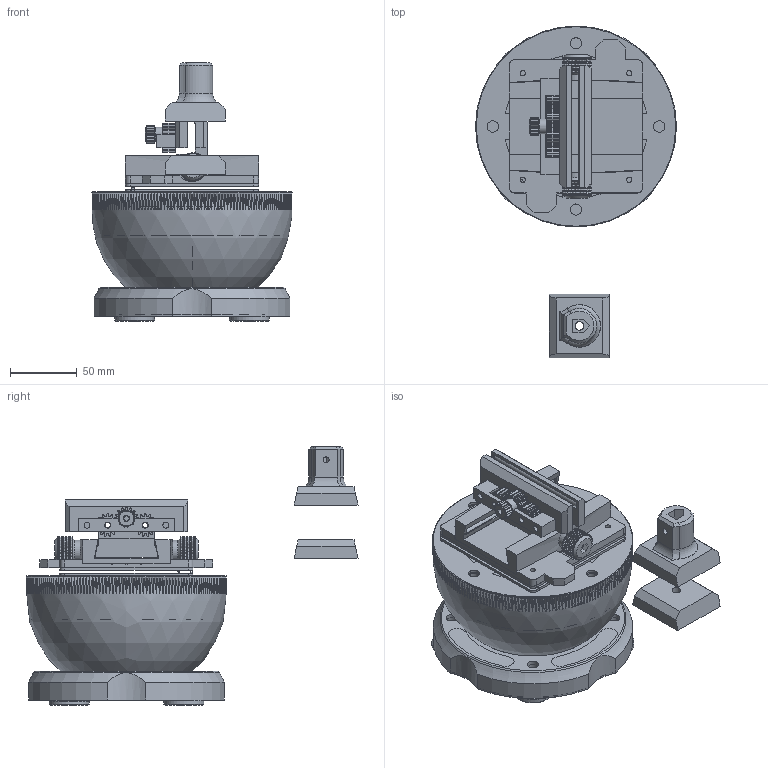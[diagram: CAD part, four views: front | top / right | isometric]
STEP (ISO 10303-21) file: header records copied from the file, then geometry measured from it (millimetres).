
FILE_DESCRIPTION(/* description */ (''),/* implementation_level */ '2;1');
FILE_NAME(/* name */ 'Balls.step',/* time_stamp */ '2024-03-28T23:08:58+10:30',/* author */ (''),/* organization */ (''),/* preprocessor_version */ 'ST-DEVELOPER v20',/* originating_system */ 'Autodesk Translation Framework v12.20.1.177',/* authorisation */ '');
FILE_SCHEMA (('AUTOMOTIVE_DESIGN { 1 0 10303 214 3 1 1 }'));
Products named in the file (1): EEEEE
Bounding box: 150.97 x 249.48 x 194.5 mm (x, y, z)
Volume: 1771878.1 mm3; surface area: 499742.2 mm2
Topology: 30 solids, 215 shells, 4086 faces, 9624 edges, 6222 vertices
Faces by surface type: bspline 1319, cylinder 1280, plane 1241, sphere 193, cone 32, torus 21
Full cylindrical faces by diameter (mm): 4 x17, 4.5 x16, 6 x2, 6.5 x2, 8 x5, 8.5 x30, 10 x8, 11 x2, 12 x4, 16 x2, 20 x1, 21 x1, 21.222 x2, 30 x4, 40.409 x1, 98.38 x2, 98.68 x2, 99.98 x2, 134.343 x3, 144.176 x1, 144.428 x1, 144.928 x1, 150.969 x1
Entity records: 168173 total; most frequent: CARTESIAN_POINT 82951, ORIENTED_EDGE 19248, DIRECTION 14475, EDGE_CURVE 9624, VERTEX_POINT 6222, AXIS2_PLACEMENT_3D 5950, EDGE_LOOP 4498, FACE_OUTER_BOUND 4086
